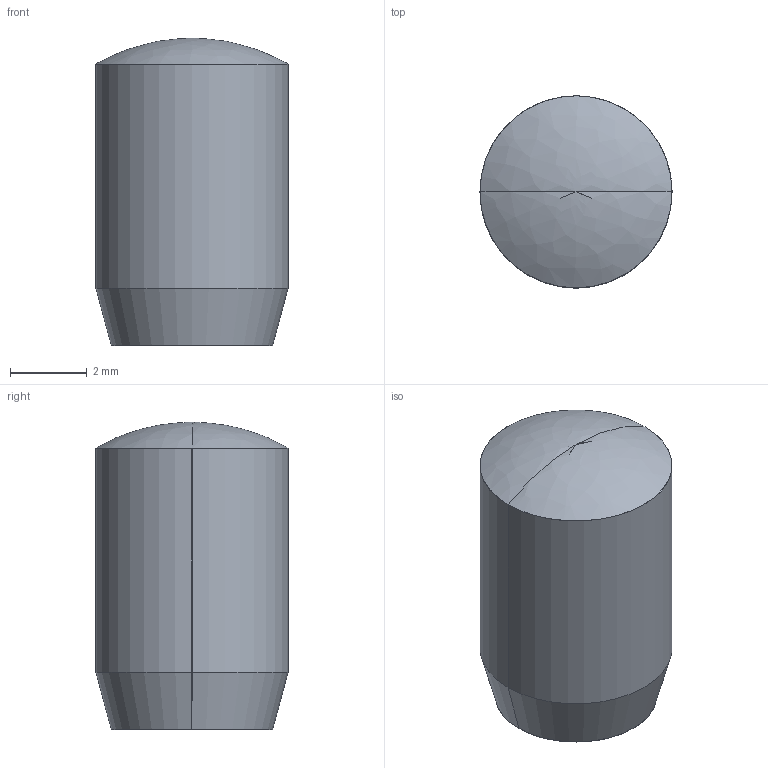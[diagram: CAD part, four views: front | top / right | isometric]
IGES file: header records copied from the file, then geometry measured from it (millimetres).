
Global section: file name: E:\UnigraphicsGraphicData\MISUMI_PRESS-PARTS\IGES\3d_ms5-8_00423_r00.igs; native system: NX V5.0; preprocessor: UGS NX IGES V5.0; author: MISUMI; date: 20110105.161512; units: millimetre
Bounding box: 5 x 5 x 8 mm (x, y, z)
Surface area: 148.9 mm2 (no closed solid volume)
Topology: 0 solids, 0 shells, 7 faces, 32 edges, 30 vertices
Faces by surface type: bspline 7
